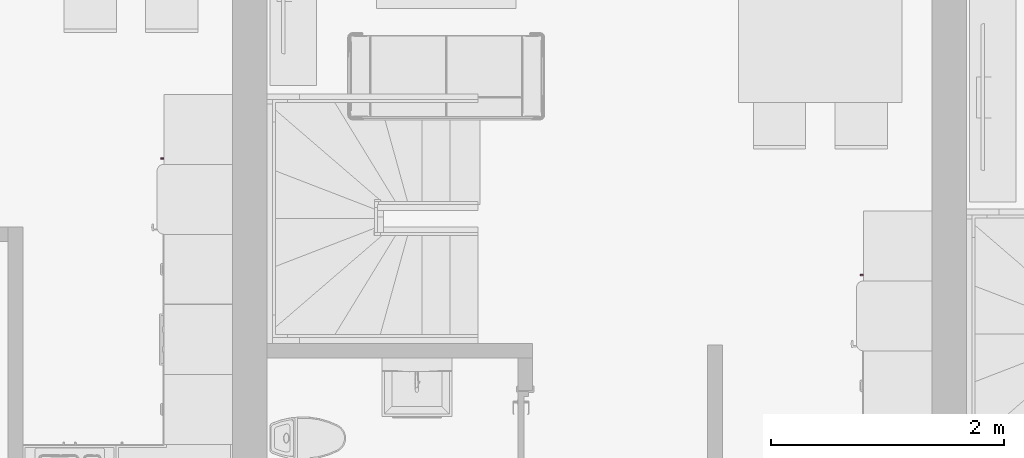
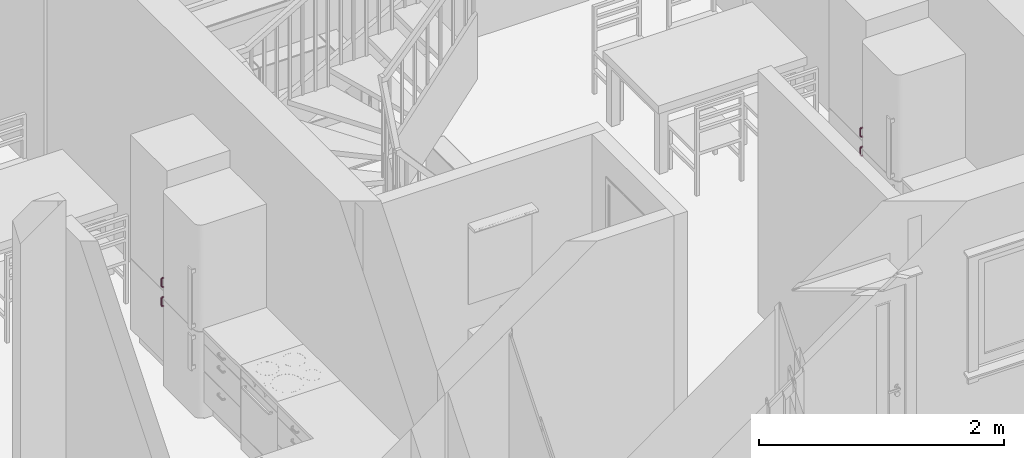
# One storey, part 49 of 65: 4 furnishings.
"""IFC2X3 building model written with IfcOpenShell, lengths in millimetres."""

from ifc_helpers import new_model, entity, si_unit, converted_unit, direction, frame, origin, place, context, subcontext, project, spatial, faceted_brep, source, transform, mapped, material, type_object, type_shapes, element, save


model = new_model("IFC2X3")

# Units and contexts
model_context = context("Model", 3, precision=0.01, world=origin(), true_north=direction((0.0, 1.0)))
body_context = subcontext(model_context, "Body", "Model", "MODEL_VIEW")
ifc_project = project(units=[si_unit("LENGTHUNIT", "METRE", prefix="MILLI"), si_unit("AREAUNIT", "SQUARE_METRE"), si_unit("VOLUMEUNIT", "CUBIC_METRE"), converted_unit("PLANEANGLEUNIT", "DEGREE", entity("IfcPlaneAngleMeasure", 0.017453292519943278), si_unit("PLANEANGLEUNIT", "RADIAN"), dimensions=[0, 0, 0, 0, 0, 0, 0])], contexts=[model_context])

# Site, building, storey, space
site_placement = place(None, origin())
site = spatial("IfcSite", under=ifc_project, at=site_placement, Name="Default", CompositionType="ELEMENT")
building_placement = place(site_placement, origin())
building = spatial("IfcBuilding", under=site, at=building_placement, CompositionType="ELEMENT")
storey_placement = place(building_placement, origin())
storey = spatial("IfcBuildingStorey", under=building, at=storey_placement, Name="Et. 1", CompositionType="ELEMENT", Elevation=0.0)
space_1_placement = place(storey_placement, origin())
space_1 = spatial("IfcSpace", under=storey, at=space_1_placement, Name="105", CompositionType="ELEMENT", InteriorOrExteriorSpace="INTERNAL")

# Furnishings
ifc_material = material(Name="Focus - Kjøkken - Håndtak")
furniture_type = type_object("IfcFurnitureType", Name="Focus - Håndtak Skap:Håndtak skap", AssemblyPlace="NOTDEFINED", material=ifc_material)
shared_shape = source(origin(), body_context, "Body", "Brep", [
    faceted_brep([(-6.0, 0.0, 4.021099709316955), (6.0, 0.0, 4.021099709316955), (7.414213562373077, 0.0, 3.435313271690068), (8.0, 0.0, 2.021099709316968), (8.0, 0.0, -4.0210997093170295), (-8.0, 0.0, -4.0210997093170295), (-8.0, 0.0, 2.021099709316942), (-7.414213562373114, 0.0, 3.435313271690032), (-8.0, 0.0, -92.021099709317), (-8.0, 0.0, -85.97890029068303), (8.0, 0.0, -85.97890029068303), (8.0, 0.0, -92.02109970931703), (7.414213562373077, 0.0, -93.43531327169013), (6.0, 0.0, -94.02109970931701), (-6.0, 0.0, -94.02109970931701), (-7.414213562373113, 0.0, -93.43531327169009), (6.0, -13.0, 4.021099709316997), (7.414213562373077, -13.0, 3.4353132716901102), (7.707106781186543, -13.0, 2.728206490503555), (8.0, -13.0, 2.0210997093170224), (8.0, -16.60126528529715, 0.5294067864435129), (8.0, -19.75783998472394, -0.7780892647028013), (8.0, -22.914414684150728, -2.0855853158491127), (8.0, -23.941085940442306, -4.564188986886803), (8.0, -24.967757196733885, -7.042792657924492), (8.0, -25.994428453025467, -9.52139632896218), (8.0, -27.021099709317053, -12.0), (8.0, -27.021099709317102, -24.345039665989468), (8.0, -27.02109970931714, -36.69008005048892), (8.0, -27.021099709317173, -47.017560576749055), (8.0, -27.02109970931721, -57.34504038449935), (8.0, -27.021099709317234, -65.65496033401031), (8.0, -27.021099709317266, -78.0), (8.0, -25.52940678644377, -81.60126528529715), (8.0, -24.221910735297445, -84.75783998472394), (8.0, -22.914414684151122, -87.91441468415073), (8.0, -20.435811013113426, -88.9410859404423), (8.0, -17.95720734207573, -89.96775719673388), (8.0, -15.478603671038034, -90.99442845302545), (8.0, -13.0, -92.02109970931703), (8.0, -13.0, -85.97890029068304), (8.0, -18.64193450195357, -83.64193450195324), (8.0, -20.978900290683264, -78.0), (8.0, -20.978900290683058, -12.0), (8.0, -18.641934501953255, -6.358065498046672), (8.0, -13.0, -4.021099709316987), (-8.0, -13.0, -4.021099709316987), (-8.0, -13.0, -92.02109970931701), (-8.0, -16.6012653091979, -90.52940677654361), (-8.0, -19.7578399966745, -89.22191073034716), (-8.0, -22.914414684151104, -87.91441468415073), (-8.0, -23.941085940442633, -85.435811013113), (-8.0, -24.967757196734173, -82.9572073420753), (-8.0, -25.99442845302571, -80.47860367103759), (-8.0, -27.021099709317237, -78.0), (-8.0, -27.0210997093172, -65.65496055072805), (-8.0, -27.021099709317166, -55.327480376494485), (-8.0, -27.02109970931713, -45.00000020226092), (-8.0, -27.021099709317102, -34.67252002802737), (-8.0, -27.021099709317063, -24.34503985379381), (-8.0, -27.02109970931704, -12.0), (-8.0, -25.52940677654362, -8.398734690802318), (-8.0, -24.221910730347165, -5.242160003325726), (-8.0, -22.914414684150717, -2.0855853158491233), (-8.0, -20.435811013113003, -1.0589140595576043), (-8.0, -17.9572073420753, -0.032242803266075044), (-8.0, -15.478603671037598, 0.9944284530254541), (-8.0, -13.0, 2.0210997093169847), (-8.0, -18.641934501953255, -6.358065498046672), (-8.0, -20.97890029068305, -12.0), (-8.0, -20.978900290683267, -78.0), (-8.0, -18.64193450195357, -83.64193450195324), (-8.0, -13.0, -85.97890029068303), (-7.414213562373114, -13.0, 3.4353132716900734), (-6.523051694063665, -13.0, 3.8044446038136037), (-6.0, -13.0, 4.021099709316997), (7.77682804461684, -22.641402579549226, -0.588486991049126), (7.761199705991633, -19.755916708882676, 1.3575143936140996), (7.832026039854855, -25.954055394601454, -4.794062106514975), (6.0, -24.3286282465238, -0.6713717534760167), (6.7653668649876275, -25.002953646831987, -1.6197407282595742), (7.138822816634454, -22.341444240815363, 0.5752165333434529), (6.0, -20.2025305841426, 1.0377138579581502), (7.148530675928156, -17.923500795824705, 2.864246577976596), (7.108929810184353, -27.65191997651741, -6.400304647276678), (6.0, -26.037713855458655, -4.797469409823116), (6.0, -26.674863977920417, -6.335685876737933), (6.0, -27.52940678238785, -8.398734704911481), (6.0, -25.18317105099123, -2.734420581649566), (7.807346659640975, -27.454202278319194, -8.476170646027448), (7.7836039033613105, -16.529274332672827, 2.502698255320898), (6.0, -16.60126529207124, 2.529406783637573), (7.414213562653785, -25.40873190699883, -2.82000717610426), (6.873580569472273, -26.597477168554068, -3.91370423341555), (6.0, -21.496471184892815, 0.5017461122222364), (6.523051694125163, -28.804444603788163, -12.0), (6.968390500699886, -28.53877057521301, -9.3033965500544), (6.0, -27.847981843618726, -9.167842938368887), (6.0, -29.021099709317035, -12.0), (7.414213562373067, -28.43531327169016, -12.0), (6.0, -18.664314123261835, 1.67486397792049), (6.0, -25.501746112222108, -3.5035288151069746), (-6.0, -16.601265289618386, 2.529406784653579), (-6.0, -15.832157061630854, 2.847981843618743), (-7.78360391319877, -27.50269824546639, -8.470725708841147), (-7.761199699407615, -26.357514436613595, -5.244083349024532), (-7.10892981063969, -18.599695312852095, 2.651919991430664), (-6.0, -20.2025305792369, 1.0377138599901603), (-6.0, -18.664314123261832, 1.67486397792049), (-7.730939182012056, -16.04875454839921, 2.7104148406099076), (-7.744591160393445, -19.340507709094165, 1.5930015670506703), (-6.76536686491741, -21.540484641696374, 1.3746327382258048), (-6.0, -22.265579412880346, 0.183171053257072), (-6.0, -21.496471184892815, 0.5017461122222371), (-7.148530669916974, -27.864246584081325, -7.076499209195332), (-7.138822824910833, -25.57521654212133, -2.6585557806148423), (-6.0, -26.037713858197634, -4.7974694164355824), (-7.414213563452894, -22.17999279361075, 0.4087319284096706), (-7.776828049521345, -24.411513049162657, -2.3585974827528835), (-6.853012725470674, -23.855367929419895, -0.47819170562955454), (-7.414213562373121, -28.43531327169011, -12.0), (-6.0, -27.529406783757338, -8.398734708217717), (-6.0, -25.501746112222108, -3.5035288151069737), (-6.0, -24.3286282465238, -0.6713717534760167), (-7.7071067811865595, -27.728206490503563, -12.0), (-6.96839049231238, -15.696603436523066, 3.5387705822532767), (-6.0, -29.021099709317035, -12.0), (-6.0, -26.67486397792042, -6.33568587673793), (7.414213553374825, -28.435313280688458, -29.508780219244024), (6.0, -29.021099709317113, -34.67252039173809), (7.450985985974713, -28.39755881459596, -41.853819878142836), (7.41421354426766, -28.435313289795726, -61.49999992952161), (6.0, -29.02109970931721, -65.65496032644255), (7.4142135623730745, -28.435313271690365, -78.0), (6.0, -29.02109970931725, -78.0), (6.0, -29.02109970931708, -24.345039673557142), (7.707106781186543, -27.728206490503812, -78.0), (6.0, -29.02109970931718, -55.3274796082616), (6.0, -29.021099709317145, -45.0), (-7.414213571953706, -28.435313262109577, -29.50878047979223), (-6.0, -29.02109970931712, -36.69007988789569), (-6.0, -29.021099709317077, -24.345040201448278), (-7.414213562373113, -28.43531327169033, -78.0), (-7.414213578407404, -28.435313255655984, -61.499999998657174), (-6.0, -29.021099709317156, -47.017559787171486), (-7.376459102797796, -28.472085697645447, -41.85382016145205), (-6.0, -29.021099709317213, -65.6549603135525), (-6.523051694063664, -28.80444460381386, -78.0), (-6.0, -29.02109970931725, -78.0), (-6.0, -29.021099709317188, -57.34504020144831), (7.776828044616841, -24.411513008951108, -87.64140257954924), (7.7611997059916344, -26.357514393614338, -84.7559167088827), (7.8320260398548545, -20.20593789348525, -90.95405539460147), (6.0, -24.328628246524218, -89.32862824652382), (6.0, -22.265579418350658, -90.18317105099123), (6.7653668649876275, -23.38025927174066, -90.002953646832), (6.0, -26.037713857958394, -85.2025305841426), (7.138822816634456, -25.575216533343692, -87.34144424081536), (7.148530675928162, -27.864246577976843, -82.92350079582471), (7.108929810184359, -18.599695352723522, -92.65191997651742), (6.0, -20.202530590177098, -91.03771385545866), (6.0, -18.66431412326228, -91.67486397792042), (6.0, -16.601265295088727, -92.52940678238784), (6.873580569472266, -21.086295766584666, -91.5974771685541), (6.0, -21.49647118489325, -90.50174611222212), (7.8073466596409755, -16.5238293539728, -92.45420227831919), (7.78360390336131, -27.50269825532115, -81.52927433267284), (6.0, -27.529406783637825, -81.60126529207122), (7.414213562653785, -22.179992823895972, -90.40873190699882), (6.0, -25.50174611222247, -86.49647118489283), (6.523051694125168, -13.0, -93.80444460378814), (6.968390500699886, -15.696603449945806, -93.53877057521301), (6.0, -15.832157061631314, -92.84798184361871), (6.0, -13.0, -94.02109970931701), (7.414213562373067, -13.0, -93.43531327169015), (6.0, -26.674863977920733, -83.66431412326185), (-6.0, -27.529406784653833, -81.60126528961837), (-6.0, -27.84798184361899, -80.83215706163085), (-7.7836039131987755, -16.529274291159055, -92.50269824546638), (-7.7611996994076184, -19.755916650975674, -91.3575144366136), (-7.108929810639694, -27.651919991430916, -83.59969531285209), (-6.0, -26.03771385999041, -85.20253057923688), (-6.0, -26.67486397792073, -83.66431412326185), (-7.730939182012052, -27.71041484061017, -81.04875454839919), (-7.74459116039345, -26.593001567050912, -84.34050770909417), (-6.76536686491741, -26.374632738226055, -86.54048464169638), (-6.0, -25.18317105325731, -87.26557941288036), (-6.0, -25.50174611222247, -86.49647118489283), (-7.148530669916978, -17.923500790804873, -92.86424658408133), (-7.138822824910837, -22.341444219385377, -90.57521654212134), (-6.0, -20.20253058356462, -91.03771385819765), (-7.414213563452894, -25.40873192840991, -87.17999279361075), (-7.776828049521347, -22.64140251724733, -89.41151304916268), (-6.853012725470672, -24.52180829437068, -88.85536792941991), (-7.41421356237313, -13.0, -93.43531327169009), (-6.0, -16.601265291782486, -92.52940678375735), (-6.0, -21.49647118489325, -90.50174611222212), (-6.0, -24.328628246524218, -89.32862824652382), (-7.707106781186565, -13.0, -92.72820649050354), (-6.96839049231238, -28.538770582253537, -80.69660343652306), (-6.0, -13.0, -94.02109970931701), (-6.0, -18.66431412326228, -91.67486397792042)], [[[0, 1, 2, 3, 4, 5, 6, 7]], [[8, 9, 10, 11, 12, 13, 14, 15]], [[16, 17, 2, 1]], [[2, 17, 18, 19, 3]], [[4, 3, 19, 20, 21, 22, 23, 24, 25, 26, 27, 28, 29, 30, 31, 32, 33, 34, 35, 36, 37, 38, 39, 11, 10, 40, 41, 42, 43, 44, 45]], [[5, 4, 45, 46]], [[9, 8, 47, 48, 49, 50, 51, 52, 53, 54, 55, 56, 57, 58, 59, 60, 61, 62, 63, 64, 65, 66, 67, 6, 5, 46, 68, 69, 70, 71, 72]], [[67, 73, 7, 6]], [[7, 73, 74, 75, 0]], [[1, 0, 75, 16]], [[76, 21, 77]], [[78, 24, 23]], [[79, 80, 81]], [[82, 81, 83]], [[84, 85, 86, 87]], [[80, 79, 88]], [[89, 24, 78]], [[90, 77, 20]], [[17, 91, 83]], [[92, 93, 84]], [[81, 82, 94, 79]], [[87, 95, 96]], [[77, 83, 81]], [[23, 76, 78]], [[93, 92, 80]], [[22, 76, 23]], [[90, 17, 83]], [[19, 18, 17, 90]], [[95, 87, 97, 98]], [[99, 26, 89]], [[76, 77, 81]], [[20, 19, 90]], [[92, 76, 81]], [[21, 76, 22]], [[21, 20, 77]], [[83, 77, 90]], [[91, 17, 16]], [[83, 91, 100, 82]], [[93, 88, 101, 85]], [[81, 80, 92]], [[88, 93, 80]], [[85, 84, 93]], [[76, 92, 78]], [[92, 84, 78]], [[89, 78, 84]], [[84, 96, 89]], [[89, 26, 25, 24]], [[96, 95, 99]], [[89, 96, 99]], [[87, 96, 84]], [[44, 68, 46, 45]], [[43, 69, 68, 44]], [[74, 102, 103, 75]], [[104, 105, 61]], [[106, 107, 108, 102]], [[109, 110, 106]], [[111, 112, 113, 107]], [[105, 114, 115]], [[115, 114, 116]], [[110, 64, 117]], [[118, 62, 105]], [[106, 110, 117]], [[117, 119, 111]], [[120, 121, 114]], [[115, 116, 122, 123]], [[112, 111, 119]], [[119, 117, 118]], [[63, 118, 64]], [[104, 120, 114]], [[60, 124, 120, 104]], [[109, 125, 73]], [[125, 109, 106]], [[118, 105, 115]], [[61, 60, 104]], [[118, 115, 119]], [[62, 118, 63]], [[62, 61, 105]], [[114, 105, 104]], [[121, 120, 126]], [[114, 121, 127, 116]], [[107, 106, 111]], [[106, 117, 111]], [[115, 123, 119]], [[112, 119, 123]], [[64, 118, 117]], [[125, 74, 73]], [[102, 74, 125]], [[102, 125, 106]], [[73, 67, 109]], [[66, 65, 64, 110]], [[110, 109, 66]], [[109, 67, 66]], [[122, 116, 127, 121, 126, 98, 97, 87, 86, 85, 101, 88, 79, 123]], [[79, 94, 82, 100, 91, 16, 75, 103, 102, 108, 107, 113, 112, 123]], [[128, 28, 27, 99]], [[129, 130, 128]], [[29, 130, 131]], [[132, 133, 131]], [[132, 134, 133]], [[135, 99, 95, 98]], [[128, 99, 135, 129]], [[30, 29, 131, 31]], [[31, 133, 136, 32]], [[27, 26, 99]], [[31, 131, 133]], [[130, 137, 131]], [[28, 130, 29]], [[129, 138, 137, 130]], [[28, 128, 130]], [[137, 132, 131]], [[69, 43, 42, 70]], [[139, 140, 141, 120]], [[55, 142, 143]], [[144, 145, 143]], [[146, 142, 147, 148]], [[141, 126, 120]], [[55, 54, 142]], [[59, 120, 124, 60]], [[139, 120, 59, 58]], [[146, 149, 144, 143]], [[58, 145, 139]], [[146, 143, 142]], [[145, 56, 143]], [[140, 145, 144]], [[58, 57, 56, 145]], [[140, 139, 145]], [[56, 55, 143]], [[98, 126, 141, 140, 144, 149, 146, 148, 134, 132, 137, 138, 129, 135]], [[150, 34, 151]], [[152, 37, 36]], [[153, 154, 155]], [[156, 157, 158]], [[159, 160, 161, 162]], [[163, 154, 164, 160]], [[165, 37, 152]], [[166, 151, 33]], [[133, 167, 158]], [[168, 163, 159]], [[157, 156, 169, 153]], [[162, 170, 171]], [[151, 158, 157]], [[36, 150, 152]], [[163, 168, 155]], [[35, 150, 36]], [[166, 133, 158]], [[32, 136, 133, 166]], [[170, 162, 172, 173]], [[174, 39, 165]], [[150, 151, 157]], [[33, 32, 166]], [[168, 150, 157]], [[34, 150, 35]], [[34, 33, 151]], [[158, 151, 166]], [[167, 133, 134]], [[158, 167, 175, 156]], [[168, 157, 155]], [[157, 153, 155]], [[154, 163, 155]], [[160, 159, 163]], [[150, 168, 152]], [[168, 159, 152]], [[165, 152, 159]], [[159, 171, 165]], [[165, 39, 38, 37]], [[171, 170, 174]], [[165, 171, 174]], [[162, 171, 159]], [[41, 71, 70, 42]], [[40, 72, 71, 41]], [[147, 176, 177, 148]], [[178, 179, 48]], [[180, 181, 182, 176]], [[183, 184, 180]], [[185, 186, 187, 181]], [[179, 188, 189]], [[189, 188, 190]], [[184, 51, 191]], [[192, 49, 179]], [[180, 184, 191]], [[191, 193, 185]], [[194, 195, 188]], [[189, 190, 196, 197]], [[186, 185, 193]], [[193, 191, 192]], [[50, 192, 51]], [[178, 194, 188]], [[47, 198, 194, 178]], [[183, 199, 142]], [[199, 183, 180]], [[192, 179, 189]], [[48, 47, 178]], [[192, 189, 193]], [[49, 192, 50]], [[49, 48, 179]], [[188, 179, 178]], [[195, 194, 200]], [[188, 195, 201, 190]], [[181, 180, 185]], [[180, 191, 185]], [[189, 197, 193]], [[186, 193, 197]], [[51, 192, 191]], [[199, 147, 142]], [[176, 147, 199]], [[176, 199, 180]], [[142, 54, 183]], [[53, 52, 51, 184]], [[184, 183, 53]], [[183, 54, 53]], [[196, 190, 201, 195, 200, 173, 172, 162, 161, 160, 164, 154, 153, 197]], [[153, 169, 156, 175, 167, 134, 148, 177, 176, 182, 181, 187, 186, 197]], [[13, 12, 174, 170, 173]], [[174, 12, 11, 39]], [[72, 40, 10, 9]], [[8, 15, 194, 198, 47]], [[194, 15, 14, 200]], [[173, 200, 14, 13]]]),
])
type_shapes(furniture_type, [shared_shape])
for number, where, z_axis, x_axis, name in (
    (1, (21442.009586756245, 13806.058719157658, 820.0), (0.0, 0.0, 1.0), (0.0, -1.0, 0.0), "Focus - Håndtak Skap:Håndtak skap"),
    (2, (21442.009586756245, 13806.058719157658, 1010.0), (0.0, 0.0, 1.0), (0.0, -1.0, 0.0), "Focus - Håndtak Skap:Håndtak skap"),
):
    element("IfcFurnishingElement", number, at=place(space_1_placement, frame(where, z_axis=z_axis, x_axis=x_axis)), inside=space_1, type_object=furniture_type, material=ifc_material, Name=name, context=body_context, shape_type="MappedRepresentation", body=[
        mapped(shared_shape, transform((0.0, 0.0, 0.0), scale=1.0)),
    ])

# Space
space_2_placement = place(storey_placement, origin())
space_2 = spatial("IfcSpace", under=storey, at=space_2_placement, Name="101", CompositionType="ELEMENT", InteriorOrExteriorSpace="INTERNAL")

# Furnishings
for number, where, z_axis, x_axis, name in (
    (3, (15442.009586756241, 14806.058719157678, 820.0), (0.0, 0.0, 1.0), (0.0, -1.0, 0.0), "Focus - Håndtak Skap:Håndtak skap"),
    (4, (15442.009586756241, 14806.058719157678, 1010.0), (0.0, 0.0, 1.0), (0.0, -1.0, 0.0), "Focus - Håndtak Skap:Håndtak skap"),
):
    element("IfcFurnishingElement", number, at=place(space_2_placement, frame(where, z_axis=z_axis, x_axis=x_axis)), inside=space_2, type_object=furniture_type, material=ifc_material, Name=name, context=body_context, shape_type="MappedRepresentation", body=[
        mapped(shared_shape, transform((0.0, 0.0, 0.0), scale=1.0)),
    ])

save(model, "model.ifc")
